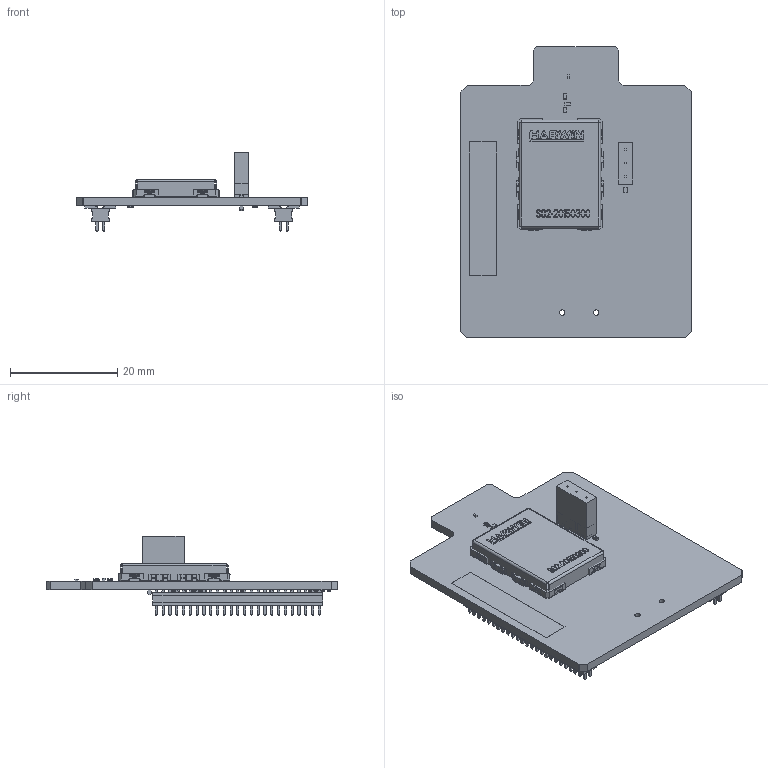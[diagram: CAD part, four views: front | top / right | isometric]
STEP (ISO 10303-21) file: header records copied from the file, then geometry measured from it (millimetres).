
FILE_DESCRIPTION(('Open CASCADE Model'),'2;1');
FILE_NAME('Open CASCADE Shape Model','2024-06-21T18:03:54',('Author'),( 'Open CASCADE'),'Open CASCADE STEP processor 7.5','Open CASCADE 7.5' ,'Unknown');
FILE_SCHEMA(('AUTOMOTIVE_DESIGN { 1 0 10303 214 1 1 1 1 }'));
Length unit declared in the file: millimetre
Products named in the file (119): PCB; Board; Open CASCADE STEP translator 7.5 1.1.1; SB48; R0402; 6964066400; Extruded; SB47; SB43; SB41; SB38; SB37; SB34; SB32; SB28; SB20; SB17; SB16; SB14; SB11; SB9; R10; 6964074080; R1; SC2; s0981-46; 6964070320; SC3; Shield clip s0951-46; 6964070080; SC1; 6963949680; SC7; 6963949840; SC8; 6964065280; U2; 6964073040; 6964072800; Cylinder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
Assembly tree (196 placements, depth 4):
  PCB
    Board
      Open CASCADE STEP translator 7.5 1.1.1
    SB48
      R0402
      6964066400
        Extruded
    SB47
      R0402
      6964066400
        Extruded
    SB43
      R0402
      6964066400
        Extruded
    SB41
      R0402
      6964066400
        Extruded
    SB38
      R0402
      6964066400
        Extruded
    SB37
      R0402
      6964066400
        Extruded
    SB34
      R0402
      6964066400
        Extruded
    SB32
      R0402
      6964066400
        Extruded
    SB28
      R0402
      6964066400
        Extruded
    SB20
      R0402
      6964066400
        Extruded
    SB17
      R0402
      6964066400
        Extruded
    SB16
      R0402
      6964066400
        Extruded
    SB14
      R0402
      6964066400
        Extruded
    SB11
      R0402
      6964066400
        Extruded
    SB9
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Bounding box: 43.1 x 54.35 x 14.85 mm (x, y, z)
Volume: 4698.2 mm3; surface area: 9830.1 mm2
Topology: 159 solids, 165 shells, 12417 faces, 29980 edges, 17283 vertices
Faces by surface type: plane 6261, cylinder 3256, bspline 1540, sphere 1074, torus 182, revolution 104
Full cylindrical faces by diameter (mm): 0.2 x1, 1 x5
Entity records: 119934 total; most frequent: CARTESIAN_POINT 24384, ORIENTED_EDGE 17230, DIRECTION 16185, EDGE_CURVE 8616, LINE 7401, VECTOR 7401, VERTEX_POINT 5444, AXIS2_PLACEMENT_3D 4388
